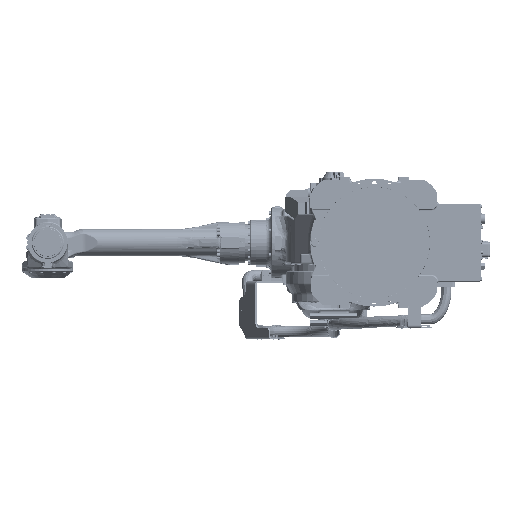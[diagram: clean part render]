
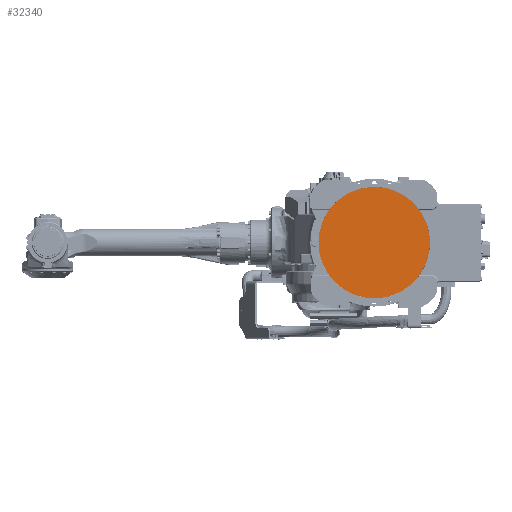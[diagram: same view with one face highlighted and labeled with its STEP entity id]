
A CAD part, front view. The second image highlights one B-rep face of the part: STEP entity #32340.
In plain terms, the highlighted planar face has unit normal (0, -1, 0).
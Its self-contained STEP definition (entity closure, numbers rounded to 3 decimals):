
#4834=CARTESIAN_POINT('',(0.,10.5,0.));
#4835=DIRECTION('',(0.,1.,0.));
#4836=DIRECTION('',(1.,0.,0.));
#4837=AXIS2_PLACEMENT_3D('',#4834,#4835,#4836);
#4839=CARTESIAN_POINT('',(0.,10.5,0.));
#4840=DIRECTION('',(0.,1.,0.));
#4841=DIRECTION('',(-1.,0.,0.));
#4842=AXIS2_PLACEMENT_3D('',#4839,#4840,#4841);
#22519=CARTESIAN_POINT('',(199.6,10.5,0.));
#22520=CARTESIAN_POINT('',(-199.6,10.5,0.));
#22521=VERTEX_POINT('',#22519);
#22522=VERTEX_POINT('',#22520);
#32330=CARTESIAN_POINT('',(0.,10.5,0.));
#32331=DIRECTION('',(0.,-1.,0.));
#32332=DIRECTION('',(-1.,0.,0.));
#32333=AXIS2_PLACEMENT_3D('',#32330,#32331,#32332);
#32334=PLANE('',#32333);
#32336=ORIENTED_EDGE('',*,*,#32335,.T.);
#32337=ORIENTED_EDGE('',*,*,#32320,.T.);
#32338=EDGE_LOOP('',(#32336,#32337));
#32339=FACE_OUTER_BOUND('',#32338,.F.);
#32340=ADVANCED_FACE('',(#32339),#32334,.T.);
#4838=CIRCLE('',#4837,199.6);
#4843=CIRCLE('',#4842,199.6);
#32320=EDGE_CURVE('',#22522,#22521,#4843,.T.);
#32335=EDGE_CURVE('',#22521,#22522,#4838,.T.);
